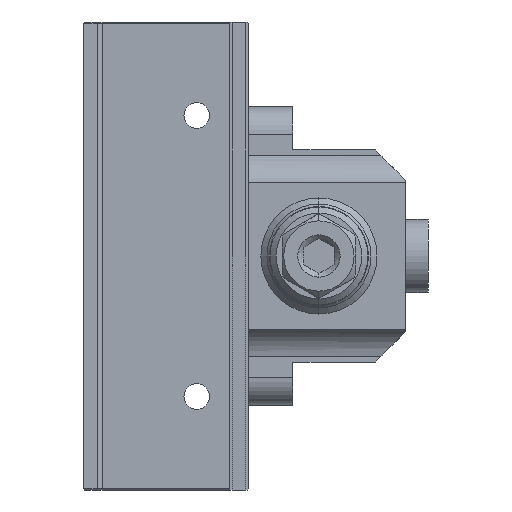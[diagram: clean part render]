
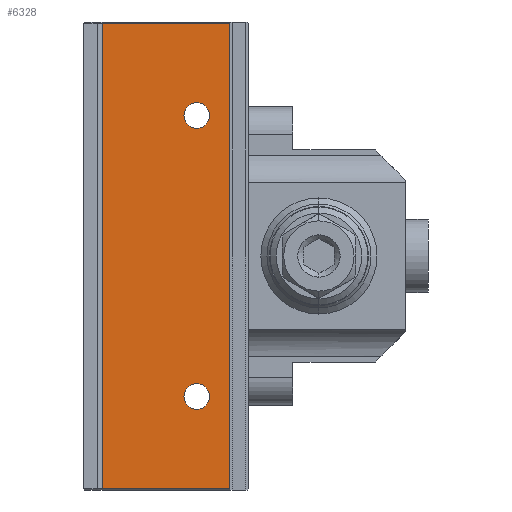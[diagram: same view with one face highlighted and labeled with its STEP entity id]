
A CAD part, left-side view. The second image highlights one B-rep face of the part: STEP entity #6328.
In plain terms, the highlighted planar face has unit normal (-1, 0, 0).
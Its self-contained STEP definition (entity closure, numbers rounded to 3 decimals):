
#102 = DIRECTION ( 'NONE',  ( 0., 0., 1. ) ) ;
#157 = DIRECTION ( 'NONE',  ( 0., 0., -1. ) ) ;
#332 = CIRCLE ( 'NONE', #5610, 2.1 ) ;
#347 = DIRECTION ( 'NONE',  ( 1., 0., 0. ) ) ;
#386 = VERTEX_POINT ( 'NONE', #2711 ) ;
#466 = LINE ( 'NONE', #6817, #1906 ) ;
#775 = EDGE_LOOP ( 'NONE', ( #6593, #4747 ) ) ;
#843 = CARTESIAN_POINT ( 'NONE',  ( -16.5, 20., 20.9 ) ) ;
#900 = DIRECTION ( 'NONE',  ( 1., 0., 0. ) ) ;
#960 = EDGE_LOOP ( 'NONE', ( #4680, #3434 ) ) ;
#966 = FACE_BOUND ( 'NONE', #960, .T. ) ;
#1005 = CIRCLE ( 'NONE', #1734, 2.1 ) ;
#1020 = ORIENTED_EDGE ( 'NONE', *, *, #3344, .T. ) ;
#1201 = CARTESIAN_POINT ( 'NONE',  ( -16.5, 20., -20.9 ) ) ;
#1396 = LINE ( 'NONE', #2030, #7016 ) ;
#1535 = DIRECTION ( 'NONE',  ( 0., 1., 0. ) ) ;
#1600 = VERTEX_POINT ( 'NONE', #7014 ) ;
#1621 = LINE ( 'NONE', #5057, #2401 ) ;
#1651 = VERTEX_POINT ( 'NONE', #1201 ) ;
#1734 = AXIS2_PLACEMENT_3D ( 'NONE', #7473, #5765, #6851 ) ;
#1735 = VERTEX_POINT ( 'NONE', #5992 ) ;
#1905 = ORIENTED_EDGE ( 'NONE', *, *, #4056, .T. ) ;
#1906 = VECTOR ( 'NONE', #1535, 1000. ) ;
#1918 = EDGE_CURVE ( 'NONE', #4038, #1651, #1005, .T. ) ;
#1993 = DIRECTION ( 'NONE',  ( 0., 0., -1. ) ) ;
#2030 = CARTESIAN_POINT ( 'NONE',  ( -16.5, 35.5, -38.3 ) ) ;
#2191 = EDGE_CURVE ( 'NONE', #6882, #1600, #7443, .T. ) ;
#2261 = CARTESIAN_POINT ( 'NONE',  ( -16.5, 20., -25.1 ) ) ;
#2401 = VECTOR ( 'NONE', #3321, 1000. ) ;
#2406 = VERTEX_POINT ( 'NONE', #4621 ) ;
#2711 = CARTESIAN_POINT ( 'NONE',  ( -16.5, 35.5, 38.1 ) ) ;
#2992 = DIRECTION ( 'NONE',  ( 0., 0., -1. ) ) ;
#3023 = EDGE_CURVE ( 'NONE', #1651, #4038, #332, .T. ) ;
#3033 = VECTOR ( 'NONE', #102, 1000. ) ;
#3214 = DIRECTION ( 'NONE',  ( 0., 0., 1. ) ) ;
#3240 = CARTESIAN_POINT ( 'NONE',  ( -16.5, 4.25, -24.4 ) ) ;
#3321 = DIRECTION ( 'NONE',  ( 0., -1., 0. ) ) ;
#3344 = EDGE_CURVE ( 'NONE', #1735, #5805, #1621, .T. ) ;
#3350 = PLANE ( 'NONE',  #4970 ) ;
#3402 = EDGE_CURVE ( 'NONE', #1600, #6882, #5746, .T. ) ;
#3434 = ORIENTED_EDGE ( 'NONE', *, *, #3402, .T. ) ;
#3614 = AXIS2_PLACEMENT_3D ( 'NONE', #6681, #4902, #1993 ) ;
#3736 = CARTESIAN_POINT ( 'NONE',  ( -16.5, 20., -23. ) ) ;
#4038 = VERTEX_POINT ( 'NONE', #2261 ) ;
#4056 = EDGE_CURVE ( 'NONE', #5805, #2406, #5898, .T. ) ;
#4621 = CARTESIAN_POINT ( 'NONE',  ( -16.5, 14.7, 38.1 ) ) ;
#4680 = ORIENTED_EDGE ( 'NONE', *, *, #2191, .T. ) ;
#4728 = CARTESIAN_POINT ( 'NONE',  ( -16.5, 20., 23. ) ) ;
#4747 = ORIENTED_EDGE ( 'NONE', *, *, #3023, .T. ) ;
#4902 = DIRECTION ( 'NONE',  ( 1., 0., 0. ) ) ;
#4970 = AXIS2_PLACEMENT_3D ( 'NONE', #3240, #347, #2992 ) ;
#5057 = CARTESIAN_POINT ( 'NONE',  ( -16.5, 11.5, -38.1 ) ) ;
#5086 = FACE_BOUND ( 'NONE', #775, .T. ) ;
#5301 = CARTESIAN_POINT ( 'NONE',  ( -16.5, 14.7, -38.3 ) ) ;
#5344 = EDGE_CURVE ( 'NONE', #2406, #386, #466, .T. ) ;
#5388 = CARTESIAN_POINT ( 'NONE',  ( -16.5, 14.7, -38.1 ) ) ;
#5402 = DIRECTION ( 'NONE',  ( 1., 0., 0. ) ) ;
#5598 = ORIENTED_EDGE ( 'NONE', *, *, #5905, .F. ) ;
#5610 = AXIS2_PLACEMENT_3D ( 'NONE', #3736, #900, #5629 ) ;
#5615 = FACE_OUTER_BOUND ( 'NONE', #6209, .T. ) ;
#5629 = DIRECTION ( 'NONE',  ( 0., 0., -1. ) ) ;
#5746 = CIRCLE ( 'NONE', #7578, 2.1 ) ;
#5765 = DIRECTION ( 'NONE',  ( 1., 0., 0. ) ) ;
#5805 = VERTEX_POINT ( 'NONE', #5388 ) ;
#5898 = LINE ( 'NONE', #5301, #3033 ) ;
#5905 = EDGE_CURVE ( 'NONE', #1735, #386, #1396, .T. ) ;
#5992 = CARTESIAN_POINT ( 'NONE',  ( -16.5, 35.5, -38.1 ) ) ;
#6209 = EDGE_LOOP ( 'NONE', ( #1020, #1905, #7404, #5598 ) ) ;
#6328 = ADVANCED_FACE ( 'NONE', ( #5086, #966, #5615 ), #3350, .F. ) ;
#6593 = ORIENTED_EDGE ( 'NONE', *, *, #1918, .T. ) ;
#6681 = CARTESIAN_POINT ( 'NONE',  ( -16.5, 20., 23. ) ) ;
#6817 = CARTESIAN_POINT ( 'NONE',  ( -16.5, 35.5, 38.1 ) ) ;
#6851 = DIRECTION ( 'NONE',  ( 0., 0., -1. ) ) ;
#6882 = VERTEX_POINT ( 'NONE', #843 ) ;
#7014 = CARTESIAN_POINT ( 'NONE',  ( -16.5, 20., 25.1 ) ) ;
#7016 = VECTOR ( 'NONE', #3214, 1000. ) ;
#7404 = ORIENTED_EDGE ( 'NONE', *, *, #5344, .T. ) ;
#7443 = CIRCLE ( 'NONE', #3614, 2.1 ) ;
#7473 = CARTESIAN_POINT ( 'NONE',  ( -16.5, 20., -23. ) ) ;
#7578 = AXIS2_PLACEMENT_3D ( 'NONE', #4728, #5402, #157 ) ;
